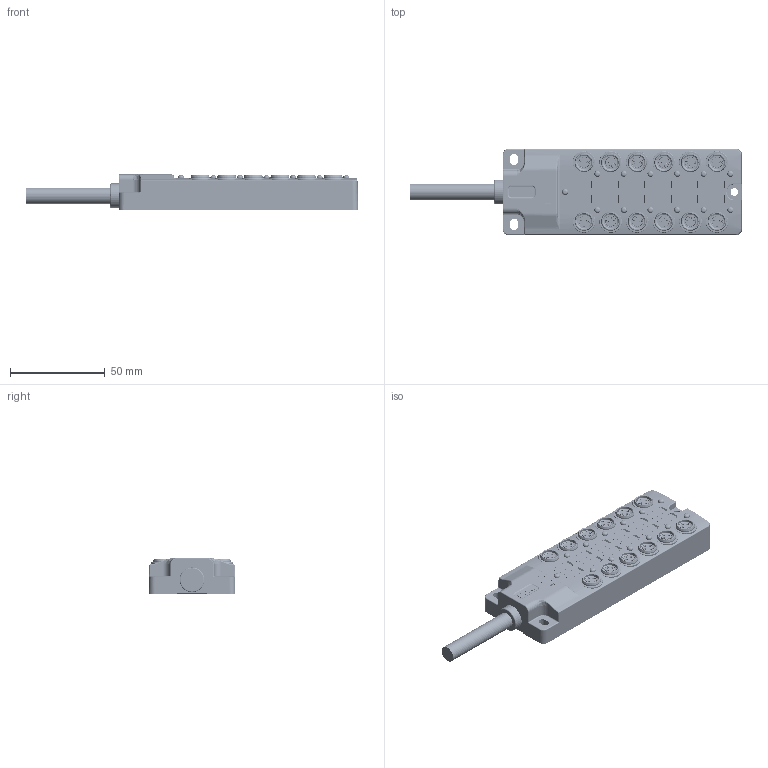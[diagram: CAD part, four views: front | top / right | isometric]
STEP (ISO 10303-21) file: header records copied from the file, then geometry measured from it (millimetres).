
FILE_DESCRIPTION (( 'STEP AP203' ), '1' );
FILE_NAME ('23PA01(23PA21¡¢23NA01¡¢23NA21).STEP', '2019-09-26T05:40:05', ( '' ), ( '' ), 'SwSTEP 2.0', 'SolidWorks 2016', '' );
FILE_SCHEMA (( 'CONFIG_CONTROL_DESIGN' ));
Products named in the file (1): 23PA01(23PA21﹜23NA01﹜23NA21)
Bounding box: 174.77 x 45.5 x 18.5 mm (x, y, z)
Volume: 92796.2 mm3; surface area: 30631.7 mm2
Topology: 1 solids, 1 shells, 4433 faces, 12714 edges, 8182 vertices
Faces by surface type: plane 1411, cylinder 1271, cone 950, bspline 775, torus 26
Entity records: 209297 total; most frequent: CARTESIAN_POINT 101308, ORIENTED_EDGE 25372, DIRECTION 19604, EDGE_CURVE 12686, VERTEX_POINT 8182, AXIS2_PLACEMENT_3D 7151, LINE 5302, VECTOR 5302
